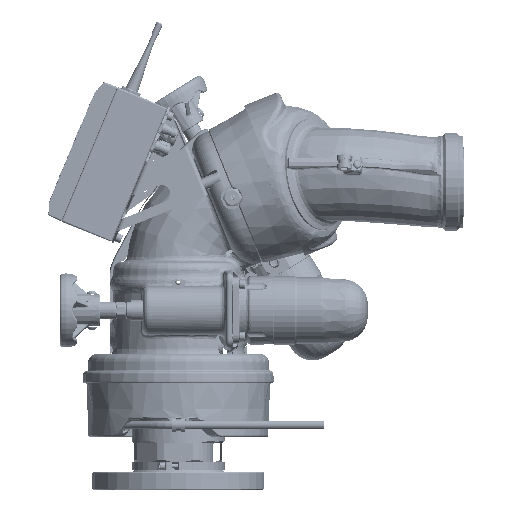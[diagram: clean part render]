
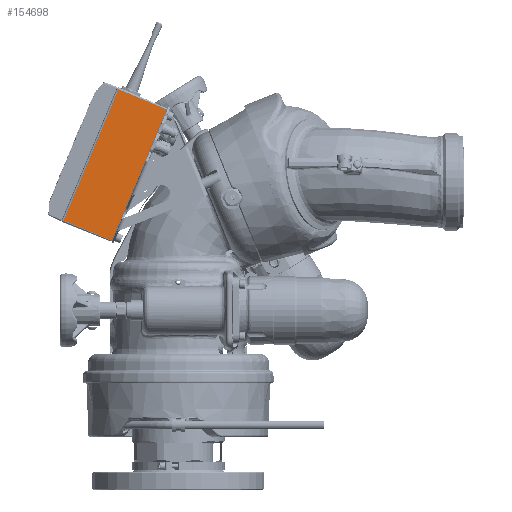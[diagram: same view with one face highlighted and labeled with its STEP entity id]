
A CAD part, top view. The second image highlights one B-rep face of the part: STEP entity #154698.
In plain terms, the highlighted planar face has unit normal (0.013, -0.005, 1).
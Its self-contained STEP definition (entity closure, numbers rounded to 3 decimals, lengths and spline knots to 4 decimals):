
#1988 = DIRECTION ( 'NONE',  ( 0.013, -0.005, 1. ) ) ;
#6817 = DIRECTION ( 'NONE',  ( 0.386, 0.923, 0. ) ) ;
#9000 = CARTESIAN_POINT ( 'NONE',  ( -6.0923, 7.807, 2.5469 ) ) ;
#9907 = EDGE_LOOP ( 'NONE', ( #86998, #168763, #52816, #112961 ) ) ;
#19001 = EDGE_CURVE ( 'NONE', #109721, #139562, #144423, .T. ) ;
#25812 = LINE ( 'NONE', #59021, #80207 ) ;
#30635 = LINE ( 'NONE', #116809, #122031 ) ;
#52816 = ORIENTED_EDGE ( 'NONE', *, *, #190524, .T. ) ;
#57021 = DIRECTION ( 'NONE',  ( -0.923, 0.386, 0.014 ) ) ;
#59021 = CARTESIAN_POINT ( 'NONE',  ( -6.1578, 7.8343, 2.5479 ) ) ;
#62481 = VERTEX_POINT ( 'NONE', #127514 ) ;
#62936 = CARTESIAN_POINT ( 'NONE',  ( -8.5262, 2.1695, 2.5479 ) ) ;
#80195 = PLANE ( 'NONE',  #193612 ) ;
#80207 = VECTOR ( 'NONE', #122548, 39.3701 ) ;
#86998 = ORIENTED_EDGE ( 'NONE', *, *, #130349, .F. ) ;
#102640 = CARTESIAN_POINT ( 'NONE',  ( -8.5262, 2.1695, 2.5479 ) ) ;
#106243 = LINE ( 'NONE', #102640, #182959 ) ;
#109721 = VERTEX_POINT ( 'NONE', #9000 ) ;
#112234 = CARTESIAN_POINT ( 'NONE',  ( -4.0203, 6.9407, 2.5155 ) ) ;
#112961 = ORIENTED_EDGE ( 'NONE', *, *, #19001, .T. ) ;
#116809 = CARTESIAN_POINT ( 'NONE',  ( -4.0203, 6.9407, 2.5155 ) ) ;
#119858 = CARTESIAN_POINT ( 'NONE',  ( -8.4607, 2.1421, 2.5469 ) ) ;
#122031 = VECTOR ( 'NONE', #6817, 39.3701 ) ;
#122548 = DIRECTION ( 'NONE',  ( -0.923, 0.386, 0.014 ) ) ;
#124895 = EDGE_CURVE ( 'NONE', #62481, #190979, #30635, .T. ) ;
#127514 = CARTESIAN_POINT ( 'NONE',  ( -6.3887, 1.2759, 2.5155 ) ) ;
#130020 = CARTESIAN_POINT ( 'NONE',  ( -8.4607, 2.1421, 2.5469 ) ) ;
#130349 = EDGE_CURVE ( 'NONE', #62481, #139562, #106243, .T. ) ;
#133712 = DIRECTION ( 'NONE',  ( -0.386, -0.923, 0. ) ) ;
#139562 = VERTEX_POINT ( 'NONE', #130020 ) ;
#144423 = LINE ( 'NONE', #119858, #169266 ) ;
#154698 = ADVANCED_FACE ( 'NONE', ( #187597 ), #80195, .T. ) ;
#168763 = ORIENTED_EDGE ( 'NONE', *, *, #124895, .T. ) ;
#169266 = VECTOR ( 'NONE', #133712, 39.3701 ) ;
#172894 = DIRECTION ( 'NONE',  ( -0.923, 0.386, 0.014 ) ) ;
#182959 = VECTOR ( 'NONE', #57021, 39.3701 ) ;
#187597 = FACE_OUTER_BOUND ( 'NONE', #9907, .T. ) ;
#190524 = EDGE_CURVE ( 'NONE', #190979, #109721, #25812, .T. ) ;
#190979 = VERTEX_POINT ( 'NONE', #112234 ) ;
#193612 = AXIS2_PLACEMENT_3D ( 'NONE', #62936, #1988, #172894 ) ;
